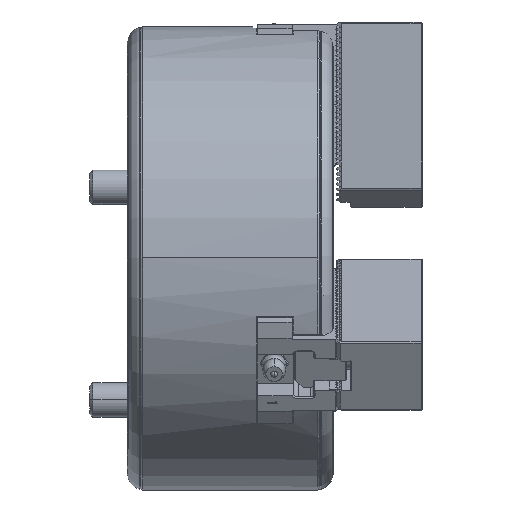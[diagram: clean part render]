
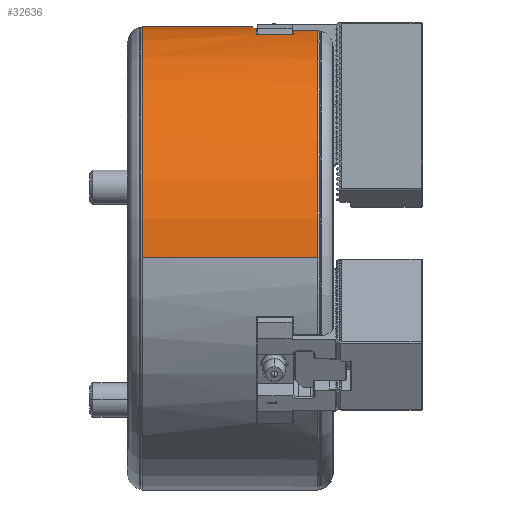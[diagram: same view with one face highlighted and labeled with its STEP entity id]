
A CAD part, top view. The second image highlights one B-rep face of the part: STEP entity #32636.
In plain terms, the highlighted cylindrical face has radius 67.5 mm (diameter 135 mm), a partial arc.
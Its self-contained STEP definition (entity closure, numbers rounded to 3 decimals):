
#285 = CARTESIAN_POINT ( 'NONE',  ( -55.5, 0., 0. ) ) ;
#513 = EDGE_CURVE ( 'NONE', #6701, #72986, #20748, .T. ) ;
#798 = DIRECTION ( 'NONE',  ( 0., 1., 0. ) ) ;
#909 = ORIENTED_EDGE ( 'NONE', *, *, #34713, .F. ) ;
#1397 = CARTESIAN_POINT ( 'NONE',  ( -4.5, 0., 67.5 ) ) ;
#3253 = CIRCLE ( 'NONE', #65656, 67.5 ) ;
#4401 = CARTESIAN_POINT ( 'NONE',  ( 0., 65.103, 17.827 ) ) ;
#4511 = ORIENTED_EDGE ( 'NONE', *, *, #513, .T. ) ;
#4776 = VERTEX_POINT ( 'NONE', #34552 ) ;
#5327 = ORIENTED_EDGE ( 'NONE', *, *, #45612, .T. ) ;
#6596 = CARTESIAN_POINT ( 'NONE',  ( -22.4, 67.088, -7.444 ) ) ;
#6701 = VERTEX_POINT ( 'NONE', #6596 ) ;
#7411 = DIRECTION ( 'NONE',  ( 1., 0., 0. ) ) ;
#8088 = DIRECTION ( 'NONE',  ( 1., 0., 0. ) ) ;
#8669 = ORIENTED_EDGE ( 'NONE', *, *, #18838, .T. ) ;
#8802 = CARTESIAN_POINT ( 'NONE',  ( -22.4, 0., 0. ) ) ;
#8884 = CYLINDRICAL_SURFACE ( 'NONE', #23548, 67.5 ) ;
#8919 = CARTESIAN_POINT ( 'NONE',  ( -11.6, 66.316, 12.588 ) ) ;
#11031 = CARTESIAN_POINT ( 'NONE',  ( 0., 65.103, -17.827 ) ) ;
#11524 = VECTOR ( 'NONE', #16488, 1000. ) ;
#11805 = DIRECTION ( 'NONE',  ( 0., 1., 0. ) ) ;
#12010 = ORIENTED_EDGE ( 'NONE', *, *, #62678, .T. ) ;
#12546 = CIRCLE ( 'NONE', #76384, 67.5 ) ;
#13566 = LINE ( 'NONE', #42577, #32972 ) ;
#13768 = EDGE_CURVE ( 'NONE', #74058, #53186, #62990, .T. ) ;
#13831 = ORIENTED_EDGE ( 'NONE', *, *, #38028, .T. ) ;
#14564 = CARTESIAN_POINT ( 'NONE',  ( 0., 0., 67.5 ) ) ;
#14577 = CARTESIAN_POINT ( 'NONE',  ( -11.6, 65.103, 17.827 ) ) ;
#15228 = LINE ( 'NONE', #53291, #38121 ) ;
#15591 = CARTESIAN_POINT ( 'NONE',  ( -4.5, 0., 0. ) ) ;
#16134 = DIRECTION ( 'NONE',  ( 1., 0., 0. ) ) ;
#16239 = EDGE_CURVE ( 'NONE', #46647, #62930, #15228, .T. ) ;
#16291 = VERTEX_POINT ( 'NONE', #1397 ) ;
#16488 = DIRECTION ( 'NONE',  ( -1., 0., 0. ) ) ;
#17068 = CARTESIAN_POINT ( 'NONE',  ( -23.4, 0., 0. ) ) ;
#17503 = ORIENTED_EDGE ( 'NONE', *, *, #16239, .F. ) ;
#18675 = ORIENTED_EDGE ( 'NONE', *, *, #13768, .T. ) ;
#18838 = EDGE_CURVE ( 'NONE', #87153, #74058, #61351, .T. ) ;
#20748 = CIRCLE ( 'NONE', #64885, 67.5 ) ;
#21399 = CIRCLE ( 'NONE', #74634, 67.5 ) ;
#21987 = EDGE_CURVE ( 'NONE', #4776, #39444, #81300, .T. ) ;
#23340 = CARTESIAN_POINT ( 'NONE',  ( -55.5, 0., 67.5 ) ) ;
#23548 = AXIS2_PLACEMENT_3D ( 'NONE', #37891, #45976, #81268 ) ;
#25171 = EDGE_LOOP ( 'NONE', ( #87229, #5327, #13831, #74404, #52534, #8669, #18675, #38206, #58934, #25901, #909, #4511, #12010, #90021, #56375, #77304, #17503 ) ) ;
#25901 = ORIENTED_EDGE ( 'NONE', *, *, #21987, .F. ) ;
#26699 = EDGE_CURVE ( 'NONE', #48509, #16291, #3253, .T. ) ;
#27932 = DIRECTION ( 'NONE',  ( 0., 1., 0. ) ) ;
#32175 = LINE ( 'NONE', #68405, #86929 ) ;
#32636 = ADVANCED_FACE ( 'NONE', ( #52678 ), #8884, .T. ) ;
#32819 = CARTESIAN_POINT ( 'NONE',  ( -22.4, 0., 0. ) ) ;
#32900 = LINE ( 'NONE', #11031, #69561 ) ;
#32972 = VECTOR ( 'NONE', #65001, 1000. ) ;
#33672 = AXIS2_PLACEMENT_3D ( 'NONE', #83486, #67317, #38702 ) ;
#34334 = DIRECTION ( 'NONE',  ( 0., 0., 1. ) ) ;
#34552 = CARTESIAN_POINT ( 'NONE',  ( -23.4, 67.088, -7.444 ) ) ;
#34713 = EDGE_CURVE ( 'NONE', #6701, #4776, #72727, .T. ) ;
#35797 = VERTEX_POINT ( 'NONE', #43166 ) ;
#36187 = EDGE_CURVE ( 'NONE', #35797, #91488, #13566, .T. ) ;
#37409 = CARTESIAN_POINT ( 'NONE',  ( -22.7, 67.088, -7.444 ) ) ;
#37542 = AXIS2_PLACEMENT_3D ( 'NONE', #83562, #77332, #70200 ) ;
#37891 = CARTESIAN_POINT ( 'NONE',  ( 0., 0., 0. ) ) ;
#38028 = EDGE_CURVE ( 'NONE', #42074, #16291, #94129, .T. ) ;
#38121 = VECTOR ( 'NONE', #8088, 1000. ) ;
#38206 = ORIENTED_EDGE ( 'NONE', *, *, #38866, .T. ) ;
#38702 = DIRECTION ( 'NONE',  ( 0., 1., 0. ) ) ;
#38866 = EDGE_CURVE ( 'NONE', #53186, #66461, #21399, .T. ) ;
#39444 = VERTEX_POINT ( 'NONE', #41719 ) ;
#39581 = DIRECTION ( 'NONE',  ( 1., 0., 0. ) ) ;
#40992 = CARTESIAN_POINT ( 'NONE',  ( -11.6, 0., 0. ) ) ;
#41600 = VECTOR ( 'NONE', #52285, 1000. ) ;
#41719 = CARTESIAN_POINT ( 'NONE',  ( -23.4, 67.088, 7.444 ) ) ;
#42074 = VERTEX_POINT ( 'NONE', #23340 ) ;
#42577 = CARTESIAN_POINT ( 'NONE',  ( 0., 66.316, -12.588 ) ) ;
#43013 = CARTESIAN_POINT ( 'NONE',  ( -11.6, 65.103, -17.827 ) ) ;
#43166 = CARTESIAN_POINT ( 'NONE',  ( -11.6, 66.316, -12.588 ) ) ;
#45612 = EDGE_CURVE ( 'NONE', #70671, #42074, #55033, .T. ) ;
#45976 = DIRECTION ( 'NONE',  ( 1., 0., 0. ) ) ;
#46174 = DIRECTION ( 'NONE',  ( -1., 0., 0. ) ) ;
#46456 = CARTESIAN_POINT ( 'NONE',  ( -22.4, 65.103, 17.827 ) ) ;
#46647 = VERTEX_POINT ( 'NONE', #54892 ) ;
#47962 = CARTESIAN_POINT ( 'NONE',  ( -4.5, 0., 0. ) ) ;
#48509 = VERTEX_POINT ( 'NONE', #65438 ) ;
#52285 = DIRECTION ( 'NONE',  ( 1., 0., 0. ) ) ;
#52534 = ORIENTED_EDGE ( 'NONE', *, *, #54426, .T. ) ;
#52678 = FACE_OUTER_BOUND ( 'NONE', #25171, .T. ) ;
#53186 = VERTEX_POINT ( 'NONE', #46456 ) ;
#53291 = CARTESIAN_POINT ( 'NONE',  ( 0., 0., -67.5 ) ) ;
#54426 = EDGE_CURVE ( 'NONE', #48509, #87153, #32175, .T. ) ;
#54892 = CARTESIAN_POINT ( 'NONE',  ( -55.5, 0., -67.5 ) ) ;
#55033 = CIRCLE ( 'NONE', #33672, 67.5 ) ;
#56375 = ORIENTED_EDGE ( 'NONE', *, *, #36187, .T. ) ;
#58934 = ORIENTED_EDGE ( 'NONE', *, *, #90018, .F. ) ;
#59242 = CARTESIAN_POINT ( 'NONE',  ( -4.5, 66.316, -12.588 ) ) ;
#60245 = DIRECTION ( 'NONE',  ( -1., 0., 0. ) ) ;
#61351 = CIRCLE ( 'NONE', #87177, 67.5 ) ;
#61918 = DIRECTION ( 'NONE',  ( 0., 0., -1. ) ) ;
#62055 = DIRECTION ( 'NONE',  ( -1., 0., 0. ) ) ;
#62678 = EDGE_CURVE ( 'NONE', #72986, #65254, #32900, .T. ) ;
#62930 = VERTEX_POINT ( 'NONE', #88604 ) ;
#62990 = LINE ( 'NONE', #4401, #80652 ) ;
#64885 = AXIS2_PLACEMENT_3D ( 'NONE', #8802, #60245, #81187 ) ;
#65001 = DIRECTION ( 'NONE',  ( 1., 0., 0. ) ) ;
#65139 = DIRECTION ( 'NONE',  ( 1., 0., 0. ) ) ;
#65254 = VERTEX_POINT ( 'NONE', #43013 ) ;
#65438 = CARTESIAN_POINT ( 'NONE',  ( -4.5, 66.316, 12.588 ) ) ;
#65656 = AXIS2_PLACEMENT_3D ( 'NONE', #47962, #85619, #11805 ) ;
#66461 = VERTEX_POINT ( 'NONE', #70310 ) ;
#66610 = DIRECTION ( 'NONE',  ( 0., 0., 1. ) ) ;
#67317 = DIRECTION ( 'NONE',  ( 1., 0., 0. ) ) ;
#67797 = CIRCLE ( 'NONE', #90660, 67.5 ) ;
#68405 = CARTESIAN_POINT ( 'NONE',  ( 0., 66.316, 12.588 ) ) ;
#69561 = VECTOR ( 'NONE', #39581, 1000. ) ;
#70200 = DIRECTION ( 'NONE',  ( 0., 0., 1. ) ) ;
#70310 = CARTESIAN_POINT ( 'NONE',  ( -22.4, 67.088, 7.444 ) ) ;
#70671 = VERTEX_POINT ( 'NONE', #74363 ) ;
#72204 = AXIS2_PLACEMENT_3D ( 'NONE', #17068, #16134, #66610 ) ;
#72727 = LINE ( 'NONE', #37409, #11524 ) ;
#72986 = VERTEX_POINT ( 'NONE', #76289 ) ;
#74058 = VERTEX_POINT ( 'NONE', #14577 ) ;
#74363 = CARTESIAN_POINT ( 'NONE',  ( -55.5, 67.5, 0. ) ) ;
#74404 = ORIENTED_EDGE ( 'NONE', *, *, #26699, .F. ) ;
#74634 = AXIS2_PLACEMENT_3D ( 'NONE', #32819, #46174, #61918 ) ;
#76248 = EDGE_CURVE ( 'NONE', #65254, #35797, #81709, .T. ) ;
#76289 = CARTESIAN_POINT ( 'NONE',  ( -22.4, 65.103, -17.827 ) ) ;
#76384 = AXIS2_PLACEMENT_3D ( 'NONE', #15591, #65139, #798 ) ;
#77304 = ORIENTED_EDGE ( 'NONE', *, *, #86642, .F. ) ;
#77332 = DIRECTION ( 'NONE',  ( 1., 0., 0. ) ) ;
#78871 = VECTOR ( 'NONE', #7411, 1000. ) ;
#80652 = VECTOR ( 'NONE', #62055, 1000. ) ;
#81187 = DIRECTION ( 'NONE',  ( 0., 0., -1. ) ) ;
#81268 = DIRECTION ( 'NONE',  ( 0., 0., -1. ) ) ;
#81300 = CIRCLE ( 'NONE', #72204, 67.5 ) ;
#81709 = CIRCLE ( 'NONE', #37542, 67.5 ) ;
#83181 = DIRECTION ( 'NONE',  ( -1., 0., 0. ) ) ;
#83486 = CARTESIAN_POINT ( 'NONE',  ( -55.5, 0., 0. ) ) ;
#83562 = CARTESIAN_POINT ( 'NONE',  ( -11.6, 0., 0. ) ) ;
#85619 = DIRECTION ( 'NONE',  ( 1., 0., 0. ) ) ;
#86642 = EDGE_CURVE ( 'NONE', #62930, #91488, #12546, .T. ) ;
#86929 = VECTOR ( 'NONE', #83181, 1000. ) ;
#87153 = VERTEX_POINT ( 'NONE', #8919 ) ;
#87177 = AXIS2_PLACEMENT_3D ( 'NONE', #40992, #92025, #34334 ) ;
#87229 = ORIENTED_EDGE ( 'NONE', *, *, #90994, .T. ) ;
#87476 = DIRECTION ( 'NONE',  ( 1., 0., 0. ) ) ;
#88524 = CARTESIAN_POINT ( 'NONE',  ( -22.7, 67.088, 7.444 ) ) ;
#88604 = CARTESIAN_POINT ( 'NONE',  ( -4.5, 0., -67.5 ) ) ;
#89937 = LINE ( 'NONE', #88524, #41600 ) ;
#90018 = EDGE_CURVE ( 'NONE', #39444, #66461, #89937, .T. ) ;
#90021 = ORIENTED_EDGE ( 'NONE', *, *, #76248, .T. ) ;
#90660 = AXIS2_PLACEMENT_3D ( 'NONE', #285, #87476, #27932 ) ;
#90994 = EDGE_CURVE ( 'NONE', #46647, #70671, #67797, .T. ) ;
#91488 = VERTEX_POINT ( 'NONE', #59242 ) ;
#92025 = DIRECTION ( 'NONE',  ( 1., 0., 0. ) ) ;
#94129 = LINE ( 'NONE', #14564, #78871 ) ;
